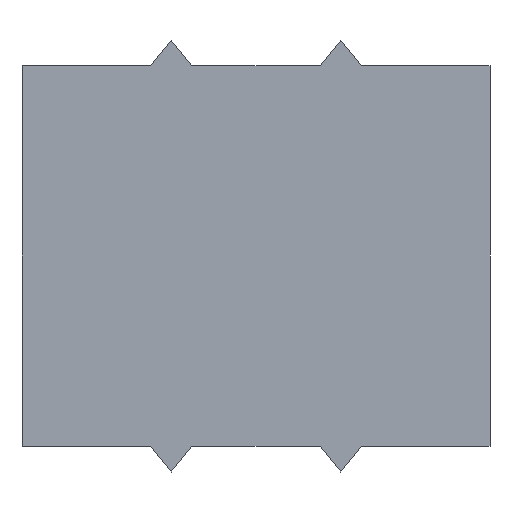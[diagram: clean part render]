
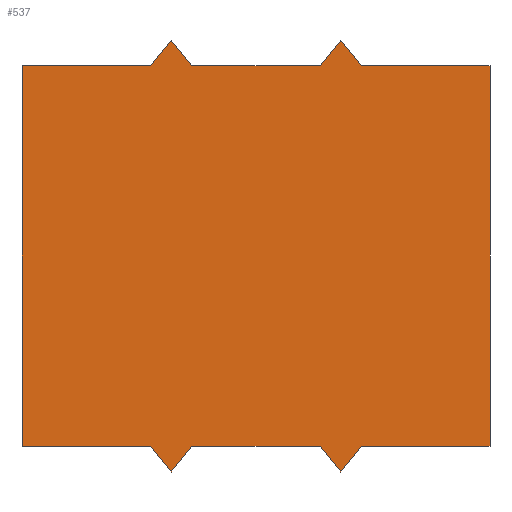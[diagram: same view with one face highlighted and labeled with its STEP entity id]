
A CAD part, front view. The second image highlights one B-rep face of the part: STEP entity #537.
In plain terms, the highlighted planar face has unit normal (0, -1, 0).
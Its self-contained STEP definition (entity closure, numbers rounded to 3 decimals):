
#24 = VERTEX_POINT('',#25);
#25 = CARTESIAN_POINT('',(12.5,-4.,37.));
#31 = EDGE_CURVE('',#24,#32,#34,.T.);
#32 = VERTEX_POINT('',#33);
#33 = CARTESIAN_POINT('',(0.,-4.,37.));
#34 = LINE('',#35,#36);
#35 = CARTESIAN_POINT('',(12.5,-4.,37.));
#36 = VECTOR('',#37,1.);
#37 = DIRECTION('',(-1.,0.,0.));
#62 = EDGE_CURVE('',#32,#63,#65,.T.);
#63 = VERTEX_POINT('',#64);
#64 = CARTESIAN_POINT('',(0.,-4.,0.));
#65 = LINE('',#66,#67);
#66 = CARTESIAN_POINT('',(0.,-4.,37.));
#67 = VECTOR('',#68,1.);
#68 = DIRECTION('',(0.,0.,-1.));
#93 = EDGE_CURVE('',#63,#94,#96,.T.);
#94 = VERTEX_POINT('',#95);
#95 = CARTESIAN_POINT('',(12.5,-4.,0.));
#96 = LINE('',#97,#98);
#97 = CARTESIAN_POINT('',(0.,-4.,0.));
#98 = VECTOR('',#99,1.);
#99 = DIRECTION('',(1.,0.,0.));
#124 = EDGE_CURVE('',#94,#125,#127,.T.);
#125 = VERTEX_POINT('',#126);
#126 = CARTESIAN_POINT('',(14.5,-4.,-2.5));
#127 = LINE('',#128,#129);
#128 = CARTESIAN_POINT('',(12.5,-4.,0.));
#129 = VECTOR('',#130,1.);
#130 = DIRECTION('',(0.625,0.,-0.781));
#155 = EDGE_CURVE('',#125,#156,#158,.T.);
#156 = VERTEX_POINT('',#157);
#157 = CARTESIAN_POINT('',(16.5,-4.,0.));
#158 = LINE('',#159,#160);
#159 = CARTESIAN_POINT('',(14.5,-4.,-2.5));
#160 = VECTOR('',#161,1.);
#161 = DIRECTION('',(0.625,0.,0.781));
#186 = EDGE_CURVE('',#156,#187,#189,.T.);
#187 = VERTEX_POINT('',#188);
#188 = CARTESIAN_POINT('',(29.,-4.,0.));
#189 = LINE('',#190,#191);
#190 = CARTESIAN_POINT('',(16.5,-4.,0.));
#191 = VECTOR('',#192,1.);
#192 = DIRECTION('',(1.,0.,0.));
#217 = EDGE_CURVE('',#187,#218,#220,.T.);
#218 = VERTEX_POINT('',#219);
#219 = CARTESIAN_POINT('',(31.,-4.,-2.5));
#220 = LINE('',#221,#222);
#221 = CARTESIAN_POINT('',(29.,-4.,0.));
#222 = VECTOR('',#223,1.);
#223 = DIRECTION('',(0.625,0.,-0.781));
#248 = EDGE_CURVE('',#218,#249,#251,.T.);
#249 = VERTEX_POINT('',#250);
#250 = CARTESIAN_POINT('',(33.,-4.,0.));
#251 = LINE('',#252,#253);
#252 = CARTESIAN_POINT('',(31.,-4.,-2.5));
#253 = VECTOR('',#254,1.);
#254 = DIRECTION('',(0.625,0.,0.781));
#279 = EDGE_CURVE('',#249,#280,#282,.T.);
#280 = VERTEX_POINT('',#281);
#281 = CARTESIAN_POINT('',(45.5,-4.,0.));
#282 = LINE('',#283,#284);
#283 = CARTESIAN_POINT('',(33.,-4.,0.));
#284 = VECTOR('',#285,1.);
#285 = DIRECTION('',(1.,0.,0.));
#310 = EDGE_CURVE('',#280,#311,#313,.T.);
#311 = VERTEX_POINT('',#312);
#312 = CARTESIAN_POINT('',(45.5,-4.,37.));
#313 = LINE('',#314,#315);
#314 = CARTESIAN_POINT('',(45.5,-4.,0.));
#315 = VECTOR('',#316,1.);
#316 = DIRECTION('',(0.,0.,1.));
#341 = EDGE_CURVE('',#311,#342,#344,.T.);
#342 = VERTEX_POINT('',#343);
#343 = CARTESIAN_POINT('',(33.,-4.,37.));
#344 = LINE('',#345,#346);
#345 = CARTESIAN_POINT('',(45.5,-4.,37.));
#346 = VECTOR('',#347,1.);
#347 = DIRECTION('',(-1.,0.,0.));
#374 = VERTEX_POINT('',#375);
#375 = CARTESIAN_POINT('',(31.,-4.,39.5));
#381 = EDGE_CURVE('',#374,#342,#382,.T.);
#382 = LINE('',#383,#384);
#383 = CARTESIAN_POINT('',(31.,-4.,39.5));
#384 = VECTOR('',#385,1.);
#385 = DIRECTION('',(0.625,0.,-0.781));
#405 = VERTEX_POINT('',#406);
#406 = CARTESIAN_POINT('',(29.,-4.,37.));
#412 = EDGE_CURVE('',#405,#374,#413,.T.);
#413 = LINE('',#414,#415);
#414 = CARTESIAN_POINT('',(29.,-4.,37.));
#415 = VECTOR('',#416,1.);
#416 = DIRECTION('',(0.625,0.,0.781));
#434 = EDGE_CURVE('',#405,#435,#437,.T.);
#435 = VERTEX_POINT('',#436);
#436 = CARTESIAN_POINT('',(16.5,-4.,37.));
#437 = LINE('',#438,#439);
#438 = CARTESIAN_POINT('',(29.,-4.,37.));
#439 = VECTOR('',#440,1.);
#440 = DIRECTION('',(-1.,0.,0.));
#467 = VERTEX_POINT('',#468);
#468 = CARTESIAN_POINT('',(14.5,-4.,39.5));
#474 = EDGE_CURVE('',#467,#435,#475,.T.);
#475 = LINE('',#476,#477);
#476 = CARTESIAN_POINT('',(14.5,-4.,39.5));
#477 = VECTOR('',#478,1.);
#478 = DIRECTION('',(0.625,0.,-0.781));
#496 = EDGE_CURVE('',#24,#467,#497,.T.);
#497 = LINE('',#498,#499);
#498 = CARTESIAN_POINT('',(12.5,-4.,37.));
#499 = VECTOR('',#500,1.);
#500 = DIRECTION('',(0.625,0.,0.781));
#537 = ADVANCED_FACE('',(#538),#556,.F.);
#538 = FACE_BOUND('',#539,.T.);
#539 = EDGE_LOOP('',(#540,#541,#542,#543,#544,#545,#546,#547,#548,#549,
    #550,#551,#552,#553,#554,#555));
#540 = ORIENTED_EDGE('',*,*,#31,.T.);
#541 = ORIENTED_EDGE('',*,*,#62,.T.);
#542 = ORIENTED_EDGE('',*,*,#93,.T.);
#543 = ORIENTED_EDGE('',*,*,#124,.T.);
#544 = ORIENTED_EDGE('',*,*,#155,.T.);
#545 = ORIENTED_EDGE('',*,*,#186,.T.);
#546 = ORIENTED_EDGE('',*,*,#217,.T.);
#547 = ORIENTED_EDGE('',*,*,#248,.T.);
#548 = ORIENTED_EDGE('',*,*,#279,.T.);
#549 = ORIENTED_EDGE('',*,*,#310,.T.);
#550 = ORIENTED_EDGE('',*,*,#341,.T.);
#551 = ORIENTED_EDGE('',*,*,#381,.F.);
#552 = ORIENTED_EDGE('',*,*,#412,.F.);
#553 = ORIENTED_EDGE('',*,*,#434,.T.);
#554 = ORIENTED_EDGE('',*,*,#474,.F.);
#555 = ORIENTED_EDGE('',*,*,#496,.F.);
#556 = PLANE('',#557);
#557 = AXIS2_PLACEMENT_3D('',#558,#559,#560);
#558 = CARTESIAN_POINT('',(22.75,-4.,18.5));
#559 = DIRECTION('',(0.,1.,0.));
#560 = DIRECTION('',(0.,0.,1.));
